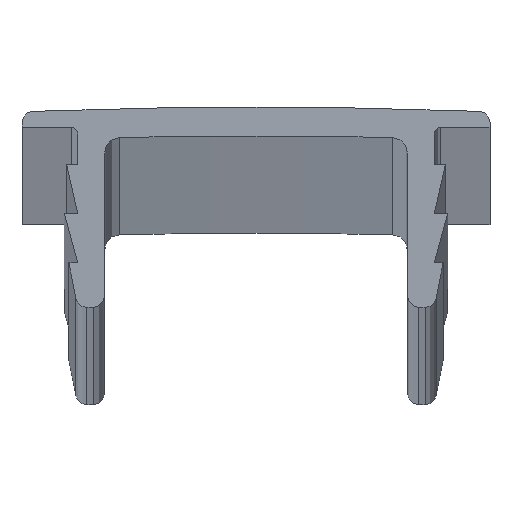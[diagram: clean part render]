
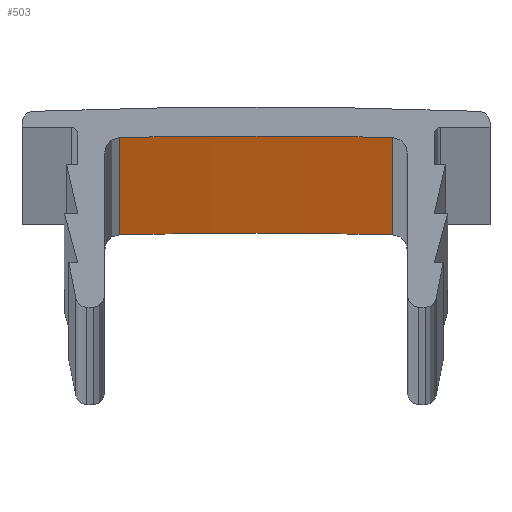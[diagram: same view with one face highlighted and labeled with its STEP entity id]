
A CAD part, top view. The second image highlights one B-rep face of the part: STEP entity #503.
In plain terms, the highlighted cylindrical face has radius 248.7 mm (diameter 497.4 mm), a partial arc.
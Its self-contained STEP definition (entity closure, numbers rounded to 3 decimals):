
#85 = LINE ( 'NONE', #653, #654 ) ;
#94 = CARTESIAN_POINT ( 'NONE',  ( -6.117, -1.375, 1250. ) ) ;
#176 = VERTEX_POINT ( 'NONE', #724 ) ;
#197 = CARTESIAN_POINT ( 'NONE',  ( 0., -250., -1250. ) ) ;
#210 = CARTESIAN_POINT ( 'NONE',  ( 6.117, -1.375, -1250. ) ) ;
#220 = DIRECTION ( 'NONE',  ( 0., 0., -1. ) ) ;
#240 = ORIENTED_EDGE ( 'NONE', *, *, #374, .T. ) ;
#249 = EDGE_LOOP ( 'NONE', ( #240, #849, #336, #870 ) ) ;
#250 = CYLINDRICAL_SURFACE ( 'NONE', #1235, 248.7 ) ;
#300 = DIRECTION ( 'NONE',  ( 0., 0., -1. ) ) ;
#308 = EDGE_CURVE ( 'NONE', #176, #681, #85, .T. ) ;
#318 = FACE_OUTER_BOUND ( 'NONE', #249, .T. ) ;
#336 = ORIENTED_EDGE ( 'NONE', *, *, #346, .F. ) ;
#346 = EDGE_CURVE ( 'NONE', #1012, #176, #492, .T. ) ;
#374 = EDGE_CURVE ( 'NONE', #785, #681, #996, .T. ) ;
#386 = DIRECTION ( 'NONE',  ( 0., 0., -1. ) ) ;
#407 = DIRECTION ( 'NONE',  ( 1., 0., 0. ) ) ;
#453 = AXIS2_PLACEMENT_3D ( 'NONE', #197, #386, #500 ) ;
#492 = CIRCLE ( 'NONE', #1208, 248.7 ) ;
#500 = DIRECTION ( 'NONE',  ( 1., 0., 0. ) ) ;
#503 = ADVANCED_FACE ( 'NONE', ( #318 ), #250, .F. ) ;
#596 = DIRECTION ( 'NONE',  ( 0., 0., -1. ) ) ;
#604 = DIRECTION ( 'NONE',  ( -1., 0., 0. ) ) ;
#653 = CARTESIAN_POINT ( 'NONE',  ( 6.117, -1.375, 1250. ) ) ;
#654 = VECTOR ( 'NONE', #1039, 1000. ) ;
#663 = VECTOR ( 'NONE', #596, 1000. ) ;
#681 = VERTEX_POINT ( 'NONE', #210 ) ;
#707 = EDGE_CURVE ( 'NONE', #1012, #785, #1161, .T. ) ;
#721 = CARTESIAN_POINT ( 'NONE',  ( 0., -250., 1250. ) ) ;
#724 = CARTESIAN_POINT ( 'NONE',  ( 6.117, -1.375, 1250. ) ) ;
#767 = CARTESIAN_POINT ( 'NONE',  ( 0., -250., 1250. ) ) ;
#785 = VERTEX_POINT ( 'NONE', #975 ) ;
#849 = ORIENTED_EDGE ( 'NONE', *, *, #308, .F. ) ;
#870 = ORIENTED_EDGE ( 'NONE', *, *, #707, .T. ) ;
#975 = CARTESIAN_POINT ( 'NONE',  ( -6.117, -1.375, -1250. ) ) ;
#996 = CIRCLE ( 'NONE', #453, 248.7 ) ;
#1012 = VERTEX_POINT ( 'NONE', #1135 ) ;
#1039 = DIRECTION ( 'NONE',  ( 0., 0., -1. ) ) ;
#1135 = CARTESIAN_POINT ( 'NONE',  ( -6.117, -1.375, 1250. ) ) ;
#1161 = LINE ( 'NONE', #94, #663 ) ;
#1208 = AXIS2_PLACEMENT_3D ( 'NONE', #767, #300, #407 ) ;
#1235 = AXIS2_PLACEMENT_3D ( 'NONE', #721, #220, #604 ) ;
